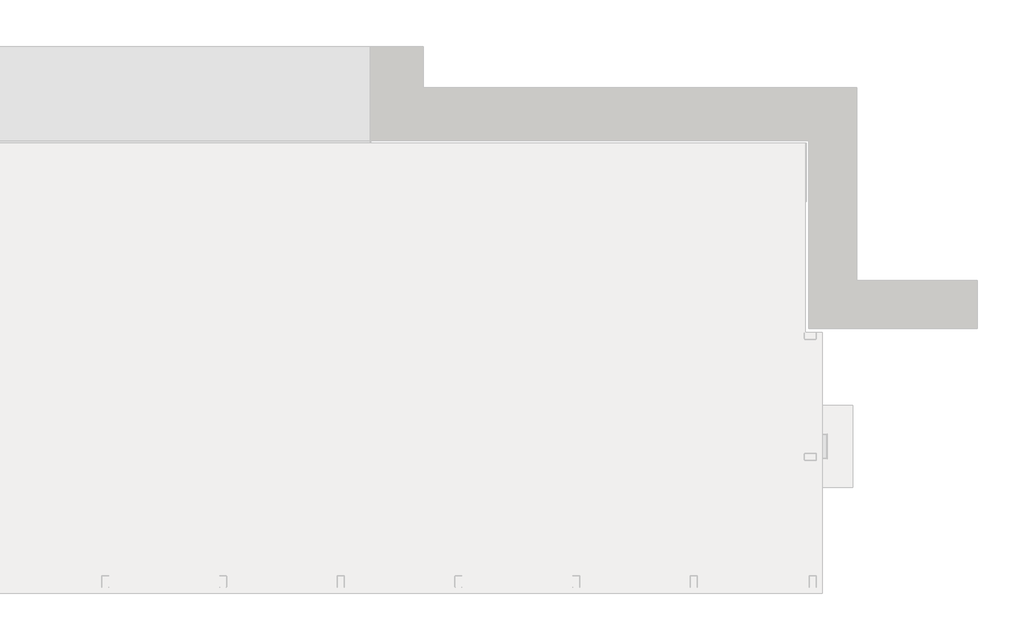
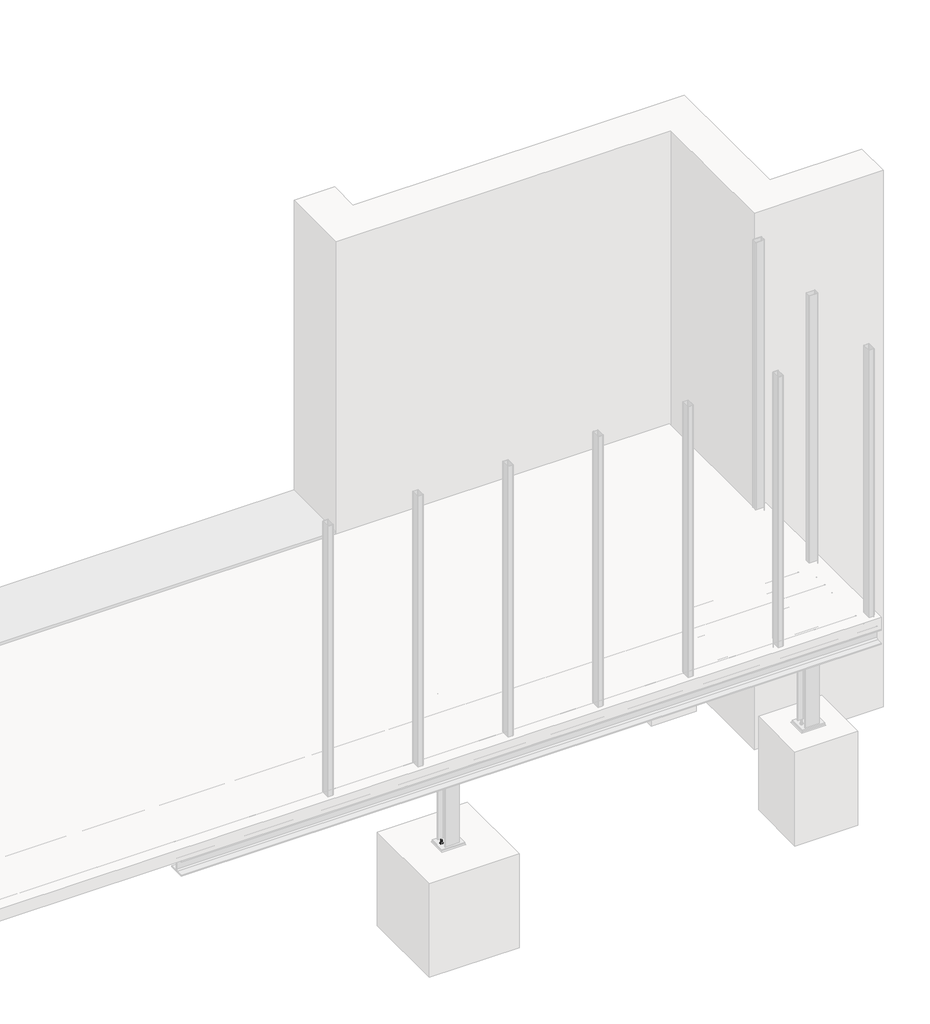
# One storey, part 32 of 36: 21 assemblies.
"""IFC4 building model written with IfcOpenShell, lengths in millimetres."""

from ifc_helpers import new_model, si_unit, point, frame, frame_2d, origin, place, context, project, spatial, polyline, circle_curve, trimmed, segment, composite_curve, outline, extrude, faceted_brep, element, save

model = new_model("IFC4")

# Units and contexts
model_context = context("Model", 3, world=origin())
ifc_project = project(units=[si_unit("LENGTHUNIT", "METRE", prefix="MILLI")], contexts=[model_context])

# Site, building, storey
site = spatial("IfcSite", under=ifc_project)
building = spatial("IfcBuilding", under=site)
storey = spatial("IfcBuildingStorey", under=building, Name="Základy", Elevation=-1200.0)

# Assemblies
placement = place(None, origin())
element("IfcElementAssembly", 1, at=placement, inside=storey, context=model_context, shape_type="SweptSolid", body=[
    extrude(outline(composite_curve([segment(polyline([(14073.6, 60.0), (14026.4, 60.0)]), True, "CONTINUOUS"), segment(trimmed(circle_curve(frame_2d((14026.4, 66.4)), 6.4), [point((14026.4, 60.0))], [point((14020.0, 66.4))], False, "CARTESIAN"), True, "CONTINUOUS"), segment(polyline([(14020.0, 66.4), (14020.0, 153.6)]), True, "CONTINUOUS"), segment(trimmed(circle_curve(frame_2d((14026.4, 153.6)), 6.4), [point((14020.0, 153.6))], [point((14026.4, 160.0))], False, "CARTESIAN"), True, "CONTINUOUS"), segment(polyline([(14026.4, 160.0), (14073.6, 160.0)]), True, "CONTINUOUS"), segment(trimmed(circle_curve(frame_2d((14073.6, 153.6)), 6.4), [point((14073.6, 160.0))], [point((14080.0, 153.6))], False, "CARTESIAN"), True, "CONTINUOUS"), segment(polyline([(14080.0, 153.6), (14080.0, 66.4)]), True, "CONTINUOUS"), segment(trimmed(circle_curve(frame_2d((14073.6, 66.4)), 6.4), [point((14080.0, 66.4))], [point((14073.6, 60.0))], False, "CARTESIAN"), True, "CONTINUOUS")], self_intersect=False), holes=[composite_curve([segment(trimmed(circle_curve(frame_2d((14073.6, 66.4)), 3.2), [point((14073.6, 63.2))], [point((14076.8, 66.4))], True, "CARTESIAN"), True, "CONTINUOUS"), segment(polyline([(14076.8, 66.4), (14076.8, 153.6)]), True, "CONTINUOUS"), segment(trimmed(circle_curve(frame_2d((14073.6, 153.6)), 3.2), [point((14076.8, 153.6))], [point((14073.6, 156.8))], True, "CARTESIAN"), True, "CONTINUOUS"), segment(polyline([(14073.6, 156.8), (14026.4, 156.8)]), True, "CONTINUOUS"), segment(trimmed(circle_curve(frame_2d((14026.4, 153.6)), 3.2), [point((14026.4, 156.8))], [point((14023.2, 153.6))], True, "CARTESIAN"), True, "CONTINUOUS"), segment(polyline([(14023.2, 153.6), (14023.2, 66.4)]), True, "CONTINUOUS"), segment(trimmed(circle_curve(frame_2d((14026.4, 66.4)), 3.2), [point((14023.2, 66.4))], [point((14026.4, 63.2))], True, "CARTESIAN"), True, "CONTINUOUS"), segment(polyline([(14026.4, 63.2), (14073.6, 63.2)]), True, "CONTINUOUS")], self_intersect=False)]), frame((0.0, 0.0, -160.0), z_axis=(0.0, 0.0, 1.0), x_axis=(1.0, 0.0, 0.0)), (0.0, 0.0, 1.0), 3320.0),
])
element("IfcElementAssembly", 2, at=placement, inside=storey, context=model_context, shape_type="SweptSolid", body=[
    extrude(outline(composite_curve([segment(polyline([(15073.6, 60.0), (15026.4, 60.0)]), True, "CONTINUOUS"), segment(trimmed(circle_curve(frame_2d((15026.4, 66.4)), 6.4), [point((15026.4, 60.0))], [point((15020.0, 66.4))], False, "CARTESIAN"), True, "CONTINUOUS"), segment(polyline([(15020.0, 66.4), (15020.0, 153.6)]), True, "CONTINUOUS"), segment(trimmed(circle_curve(frame_2d((15026.4, 153.6)), 6.4), [point((15020.0, 153.6))], [point((15026.4, 160.0))], False, "CARTESIAN"), True, "CONTINUOUS"), segment(polyline([(15026.4, 160.0), (15073.6, 160.0)]), True, "CONTINUOUS"), segment(trimmed(circle_curve(frame_2d((15073.6, 153.6)), 6.4), [point((15073.6, 160.0))], [point((15080.0, 153.6))], False, "CARTESIAN"), True, "CONTINUOUS"), segment(polyline([(15080.0, 153.6), (15080.0, 66.4)]), True, "CONTINUOUS"), segment(trimmed(circle_curve(frame_2d((15073.6, 66.4)), 6.4), [point((15080.0, 66.4))], [point((15073.6, 60.0))], False, "CARTESIAN"), True, "CONTINUOUS")], self_intersect=False), holes=[composite_curve([segment(trimmed(circle_curve(frame_2d((15073.6, 66.4)), 3.2), [point((15073.6, 63.2))], [point((15076.8, 66.4))], True, "CARTESIAN"), True, "CONTINUOUS"), segment(polyline([(15076.8, 66.4), (15076.8, 153.6)]), True, "CONTINUOUS"), segment(trimmed(circle_curve(frame_2d((15073.6, 153.6)), 3.2), [point((15076.8, 153.6))], [point((15073.6, 156.8))], True, "CARTESIAN"), True, "CONTINUOUS"), segment(polyline([(15073.6, 156.8), (15026.4, 156.8)]), True, "CONTINUOUS"), segment(trimmed(circle_curve(frame_2d((15026.4, 153.6)), 3.2), [point((15026.4, 156.8))], [point((15023.2, 153.6))], True, "CARTESIAN"), True, "CONTINUOUS"), segment(polyline([(15023.2, 153.6), (15023.2, 66.4)]), True, "CONTINUOUS"), segment(trimmed(circle_curve(frame_2d((15026.4, 66.4)), 3.2), [point((15023.2, 66.4))], [point((15026.4, 63.2))], True, "CARTESIAN"), True, "CONTINUOUS"), segment(polyline([(15026.4, 63.2), (15073.6, 63.2)]), True, "CONTINUOUS")], self_intersect=False)]), frame((0.0, 0.0, -160.0), z_axis=(0.0, 0.0, 1.0), x_axis=(1.0, 0.0, 0.0)), (0.0, 0.0, 1.0), 3320.0),
])
element("IfcElementAssembly", 3, at=placement, inside=storey, context=model_context, shape_type="SweptSolid", body=[
    extrude(outline(composite_curve([segment(polyline([(12130.0, 1184.0), (11970.0, 1184.0), (11970.0, 1193.0), (12032.0, 1193.0)]), True, "CONTINUOUS"), segment(trimmed(circle_curve(frame_2d((12032.0, 1208.0)), 15.0), [point((12032.0, 1193.0))], [point((12047.0, 1208.0))], True, "CARTESIAN"), True, "CONTINUOUS"), segment(polyline([(12047.0, 1208.0), (12047.0, 1312.0)]), True, "CONTINUOUS"), segment(trimmed(circle_curve(frame_2d((12032.0, 1312.0)), 15.0), [point((12047.0, 1312.0))], [point((12032.0, 1327.0))], True, "CARTESIAN"), True, "CONTINUOUS"), segment(polyline([(12032.0, 1327.0), (11970.0, 1327.0), (11970.0, 1336.0), (12130.0, 1336.0), (12130.0, 1327.0), (12068.0, 1327.0)]), True, "CONTINUOUS"), segment(trimmed(circle_curve(frame_2d((12068.0, 1312.0)), 15.0), [point((12068.0, 1327.0))], [point((12053.0, 1312.0))], True, "CARTESIAN"), True, "CONTINUOUS"), segment(polyline([(12053.0, 1312.0), (12053.0, 1208.0)]), True, "CONTINUOUS"), segment(trimmed(circle_curve(frame_2d((12068.0, 1208.0)), 15.0), [point((12053.0, 1208.0))], [point((12068.0, 1193.0))], True, "CARTESIAN"), True, "CONTINUOUS"), segment(polyline([(12068.0, 1193.0), (12130.0, 1193.0), (12130.0, 1184.0)]), True, "CONTINUOUS")], self_intersect=False)), frame((0.0, 0.0, -1975.0), z_axis=(0.0, 0.0, 1.0), x_axis=(1.0, 0.0, 0.0)), (0.0, 0.0, 1.0), 1625.0),
    extrude(outline(polyline([(12175.0, 1356.0), (12175.0, 1164.0), (11925.0, 1164.0), (11925.0, 1356.0), (12175.0, 1356.0)])), frame((0.0, 0.0, -1990.0), z_axis=(0.0, 0.0, 1.0), x_axis=(1.0, 0.0, 0.0)), (0.0, 0.0, 1.0), 15.0),
    extrude(outline(polyline([(12140.0, 1346.0), (12140.0, 1174.0), (11960.0, 1174.0), (11960.0, 1346.0), (12140.0, 1346.0)])), frame((0.0, 0.0, -350.0), z_axis=(0.0, 0.0, 1.0), x_axis=(1.0, 0.0, 0.0)), (0.0, 0.0, 1.0), 10.0),
    extrude(outline(polyline([(11982.7364934, 1260.0), (11978.8682467, 1253.3000002), (11971.1317533, 1253.3000002), (11967.2635066, 1260.0), (11971.1317533, 1266.6999998), (11978.8682467, 1266.6999998), (11982.7364934, 1260.0)])), frame((0.0, 0.0, -2122.0), z_axis=(0.0, 0.0, 1.0), x_axis=(1.0, 0.0, 0.0)), (0.0, 0.0, 1.0), 132.0),
    extrude(outline(composite_curve([segment(trimmed(circle_curve(frame_2d((11975.0, 1260.0)), 8.0), [point((11983.0, 1260.0))], [point((11967.0, 1260.0))], False, "CARTESIAN"), True, "CONTINUOUS"), segment(trimmed(circle_curve(frame_2d((11975.0, 1260.0)), 8.0), [point((11967.0, 1260.0))], [point((11983.0, 1260.0))], False, "CARTESIAN"), True, "CONTINUOUS")], self_intersect=False)), frame((0.0, 0.0, -1990.0), z_axis=(0.0, 0.0, 1.0), x_axis=(1.0, 0.0, 0.0)), (0.0, 0.0, 1.0), 58.0),
    extrude(outline(composite_curve([segment(trimmed(circle_curve(frame_2d((11975.0, 1260.0)), 15.0), [point((11990.0, 1260.0))], [point((11960.0, 1260.0))], False, "CARTESIAN"), True, "CONTINUOUS"), segment(trimmed(circle_curve(frame_2d((11975.0, 1260.0)), 15.0), [point((11960.0, 1260.0))], [point((11990.0, 1260.0))], False, "CARTESIAN"), True, "CONTINUOUS")], self_intersect=False)), frame((0.0, 0.0, -1975.0), z_axis=(0.0, 0.0, 1.0), x_axis=(1.0, 0.0, 0.0)), (0.0, 0.0, 1.0), 3.0),
    extrude(outline(polyline([(11990.4441197, 1260.0), (11982.7220599, 1246.625), (11967.2779401, 1246.625), (11959.5558803, 1260.0), (11967.2779401, 1273.375), (11982.7220599, 1273.375), (11990.4441197, 1260.0)])), frame((0.0, 0.0, -1972.0), z_axis=(0.0, 0.0, 1.0), x_axis=(1.0, 0.0, 0.0)), (0.0, 0.0, 1.0), 13.0),
    extrude(outline(composite_curve([segment(trimmed(circle_curve(frame_2d((11975.0, 1260.0)), 9.0), [point((11984.0, 1260.0))], [point((11966.0, 1260.0))], False, "CARTESIAN"), True, "CONTINUOUS"), segment(trimmed(circle_curve(frame_2d((11975.0, 1260.0)), 9.0), [point((11966.0, 1260.0))], [point((11984.0, 1260.0))], False, "CARTESIAN"), True, "CONTINUOUS")], self_intersect=False)), frame((0.0, 0.0, -1990.0), z_axis=(0.0, 0.0, 1.0), x_axis=(1.0, 0.0, 0.0)), (0.0, 0.0, 1.0), 15.1),
    extrude(outline(polyline([(12132.7364934, 1260.0), (12128.8682467, 1253.3000002), (12121.1317533, 1253.3000002), (12117.2635066, 1260.0), (12121.1317533, 1266.6999998), (12128.8682467, 1266.6999998), (12132.7364934, 1260.0)])), frame((0.0, 0.0, -2122.0), z_axis=(0.0, 0.0, 1.0), x_axis=(1.0, 0.0, 0.0)), (0.0, 0.0, 1.0), 132.0),
    extrude(outline(composite_curve([segment(trimmed(circle_curve(frame_2d((12125.0, 1260.0)), 8.0), [point((12133.0, 1260.0))], [point((12117.0, 1260.0))], False, "CARTESIAN"), True, "CONTINUOUS"), segment(trimmed(circle_curve(frame_2d((12125.0, 1260.0)), 8.0), [point((12117.0, 1260.0))], [point((12133.0, 1260.0))], False, "CARTESIAN"), True, "CONTINUOUS")], self_intersect=False)), frame((0.0, 0.0, -1990.0), z_axis=(0.0, 0.0, 1.0), x_axis=(1.0, 0.0, 0.0)), (0.0, 0.0, 1.0), 58.0),
    extrude(outline(composite_curve([segment(trimmed(circle_curve(frame_2d((12125.0, 1260.0)), 15.0), [point((12140.0, 1260.0))], [point((12110.0, 1260.0))], False, "CARTESIAN"), True, "CONTINUOUS"), segment(trimmed(circle_curve(frame_2d((12125.0, 1260.0)), 15.0), [point((12110.0, 1260.0))], [point((12140.0, 1260.0))], False, "CARTESIAN"), True, "CONTINUOUS")], self_intersect=False)), frame((0.0, 0.0, -1975.0), z_axis=(0.0, 0.0, 1.0), x_axis=(1.0, 0.0, 0.0)), (0.0, 0.0, 1.0), 3.0),
    extrude(outline(polyline([(12140.4441197, 1260.0), (12132.7220599, 1246.625), (12117.2779401, 1246.625), (12109.5558803, 1260.0), (12117.2779401, 1273.375), (12132.7220599, 1273.375), (12140.4441197, 1260.0)])), frame((0.0, 0.0, -1972.0), z_axis=(0.0, 0.0, 1.0), x_axis=(1.0, 0.0, 0.0)), (0.0, 0.0, 1.0), 13.0),
    extrude(outline(composite_curve([segment(trimmed(circle_curve(frame_2d((12125.0, 1260.0)), 9.0), [point((12134.0, 1260.0))], [point((12116.0, 1260.0))], False, "CARTESIAN"), True, "CONTINUOUS"), segment(trimmed(circle_curve(frame_2d((12125.0, 1260.0)), 9.0), [point((12116.0, 1260.0))], [point((12134.0, 1260.0))], False, "CARTESIAN"), True, "CONTINUOUS")], self_intersect=False)), frame((0.0, 0.0, -1990.0), z_axis=(0.0, 0.0, 1.0), x_axis=(1.0, 0.0, 0.0)), (0.0, 0.0, 1.0), 15.1),
    extrude(outline(composite_curve([segment(trimmed(circle_curve(frame_2d((12000.0, 1220.0)), 6.5), [point((12006.5, 1220.0))], [point((11993.5, 1220.0))], False, "CARTESIAN"), True, "CONTINUOUS"), segment(trimmed(circle_curve(frame_2d((12000.0, 1220.0)), 6.5), [point((11993.5, 1220.0))], [point((12006.5, 1220.0))], False, "CARTESIAN"), True, "CONTINUOUS")], self_intersect=False)), frame((0.0, 0.0, -350.0), z_axis=(0.0, 0.0, 1.0), x_axis=(1.0, 0.0, 0.0)), (0.0, 0.0, 1.0), 10.1),
    extrude(outline(polyline([(12010.3923048, 1220.0), (12005.1961524, 1211.0), (11994.8038476, 1211.0), (11989.6076952, 1220.0), (11994.8038476, 1229.0), (12005.1961524, 1229.0), (12010.3923048, 1220.0)])), frame((0.0, 0.0, -323.5), z_axis=(0.0, 0.0, 1.0), x_axis=(1.0, 0.0, 0.0)), (0.0, 0.0, 1.0), 7.5),
    extrude(outline(composite_curve([segment(trimmed(circle_curve(frame_2d((12000.0, 1220.0)), 6.0), [point((12006.0, 1220.0))], [point((11994.0, 1220.0))], False, "CARTESIAN"), True, "CONTINUOUS"), segment(trimmed(circle_curve(frame_2d((12000.0, 1220.0)), 6.0), [point((11994.0, 1220.0))], [point((12006.0, 1220.0))], False, "CARTESIAN"), True, "CONTINUOUS")], self_intersect=False)), frame((0.0, 0.0, -368.5), z_axis=(0.0, 0.0, 1.0), x_axis=(1.0, 0.0, 0.0)), (0.0, 0.0, 1.0), 45.0),
    extrude(outline(composite_curve([segment(trimmed(circle_curve(frame_2d((12000.0, 1220.0)), 12.0), [point((12012.0, 1220.0))], [point((11988.0, 1220.0))], False, "CARTESIAN"), True, "CONTINUOUS"), segment(trimmed(circle_curve(frame_2d((12000.0, 1220.0)), 12.0), [point((11988.0, 1220.0))], [point((12012.0, 1220.0))], False, "CARTESIAN"), True, "CONTINUOUS")], self_intersect=False)), frame((0.0, 0.0, -326.0), z_axis=(0.0, 0.0, 1.0), x_axis=(1.0, 0.0, 0.0)), (0.0, 0.0, 1.0), 2.5),
    extrude(outline(composite_curve([segment(trimmed(circle_curve(frame_2d((12000.0, 1220.0)), 12.0), [point((12012.0, 1220.0))], [point((11988.0, 1220.0))], False, "CARTESIAN"), True, "CONTINUOUS"), segment(trimmed(circle_curve(frame_2d((12000.0, 1220.0)), 12.0), [point((11988.0, 1220.0))], [point((12012.0, 1220.0))], False, "CARTESIAN"), True, "CONTINUOUS")], self_intersect=False)), frame((0.0, 0.0, -352.5), z_axis=(0.0, 0.0, 1.0), x_axis=(1.0, 0.0, 0.0)), (0.0, 0.0, 1.0), 2.5),
    extrude(outline(polyline([(12010.9696551, 1220.0), (12005.4848276, 1210.5), (11994.5151724, 1210.5), (11989.0303449, 1220.0), (11994.5151724, 1229.5), (12005.4848276, 1229.5), (12010.9696551, 1220.0)])), frame((0.0, 0.0, -362.5), z_axis=(0.0, 0.0, 1.0), x_axis=(1.0, 0.0, 0.0)), (0.0, 0.0, 1.0), 10.0),
    extrude(outline(composite_curve([segment(trimmed(circle_curve(frame_2d((12000.0, 1220.0)), 6.5), [point((12006.5, 1220.0))], [point((11993.5, 1220.0))], False, "CARTESIAN"), True, "CONTINUOUS"), segment(trimmed(circle_curve(frame_2d((12000.0, 1220.0)), 6.5), [point((11993.5, 1220.0))], [point((12006.5, 1220.0))], False, "CARTESIAN"), True, "CONTINUOUS")], self_intersect=False)), frame((0.0, 0.0, -340.1), z_axis=(0.0, 0.0, 1.0), x_axis=(1.0, 0.0, 0.0)), (0.0, 0.0, 1.0), 14.0),
    extrude(outline(composite_curve([segment(trimmed(circle_curve(frame_2d((12100.0, 1220.0)), 6.5), [point((12106.5, 1220.0))], [point((12093.5, 1220.0))], False, "CARTESIAN"), True, "CONTINUOUS"), segment(trimmed(circle_curve(frame_2d((12100.0, 1220.0)), 6.5), [point((12093.5, 1220.0))], [point((12106.5, 1220.0))], False, "CARTESIAN"), True, "CONTINUOUS")], self_intersect=False)), frame((0.0, 0.0, -350.0), z_axis=(0.0, 0.0, 1.0), x_axis=(1.0, 0.0, 0.0)), (0.0, 0.0, 1.0), 10.1),
    extrude(outline(polyline([(12110.3923048, 1220.0), (12105.1961524, 1211.0), (12094.8038476, 1211.0), (12089.6076952, 1220.0), (12094.8038476, 1229.0), (12105.1961524, 1229.0), (12110.3923048, 1220.0)])), frame((0.0, 0.0, -323.5), z_axis=(0.0, 0.0, 1.0), x_axis=(1.0, 0.0, 0.0)), (0.0, 0.0, 1.0), 7.5),
    extrude(outline(composite_curve([segment(trimmed(circle_curve(frame_2d((12100.0, 1220.0)), 6.0), [point((12106.0, 1220.0))], [point((12094.0, 1220.0))], False, "CARTESIAN"), True, "CONTINUOUS"), segment(trimmed(circle_curve(frame_2d((12100.0, 1220.0)), 6.0), [point((12094.0, 1220.0))], [point((12106.0, 1220.0))], False, "CARTESIAN"), True, "CONTINUOUS")], self_intersect=False)), frame((0.0, 0.0, -368.5), z_axis=(0.0, 0.0, 1.0), x_axis=(1.0, 0.0, 0.0)), (0.0, 0.0, 1.0), 45.0),
    extrude(outline(composite_curve([segment(trimmed(circle_curve(frame_2d((12100.0, 1220.0)), 12.0), [point((12112.0, 1220.0))], [point((12088.0, 1220.0))], False, "CARTESIAN"), True, "CONTINUOUS"), segment(trimmed(circle_curve(frame_2d((12100.0, 1220.0)), 12.0), [point((12088.0, 1220.0))], [point((12112.0, 1220.0))], False, "CARTESIAN"), True, "CONTINUOUS")], self_intersect=False)), frame((0.0, 0.0, -326.0), z_axis=(0.0, 0.0, 1.0), x_axis=(1.0, 0.0, 0.0)), (0.0, 0.0, 1.0), 2.5),
    extrude(outline(composite_curve([segment(trimmed(circle_curve(frame_2d((12100.0, 1220.0)), 12.0), [point((12112.0, 1220.0))], [point((12088.0, 1220.0))], False, "CARTESIAN"), True, "CONTINUOUS"), segment(trimmed(circle_curve(frame_2d((12100.0, 1220.0)), 12.0), [point((12088.0, 1220.0))], [point((12112.0, 1220.0))], False, "CARTESIAN"), True, "CONTINUOUS")], self_intersect=False)), frame((0.0, 0.0, -352.5), z_axis=(0.0, 0.0, 1.0), x_axis=(1.0, 0.0, 0.0)), (0.0, 0.0, 1.0), 2.5),
    extrude(outline(polyline([(12110.9696551, 1220.0), (12105.4848276, 1210.5), (12094.5151724, 1210.5), (12089.0303449, 1220.0), (12094.5151724, 1229.5), (12105.4848276, 1229.5), (12110.9696551, 1220.0)])), frame((0.0, 0.0, -362.5), z_axis=(0.0, 0.0, 1.0), x_axis=(1.0, 0.0, 0.0)), (0.0, 0.0, 1.0), 10.0),
    extrude(outline(composite_curve([segment(trimmed(circle_curve(frame_2d((12100.0, 1220.0)), 6.5), [point((12106.5, 1220.0))], [point((12093.5, 1220.0))], False, "CARTESIAN"), True, "CONTINUOUS"), segment(trimmed(circle_curve(frame_2d((12100.0, 1220.0)), 6.5), [point((12093.5, 1220.0))], [point((12106.5, 1220.0))], False, "CARTESIAN"), True, "CONTINUOUS")], self_intersect=False)), frame((0.0, 0.0, -340.1), z_axis=(0.0, 0.0, 1.0), x_axis=(1.0, 0.0, 0.0)), (0.0, 0.0, 1.0), 14.0),
    extrude(outline(composite_curve([segment(trimmed(circle_curve(frame_2d((12000.0, 1300.0)), 6.5), [point((12006.5, 1300.0))], [point((11993.5, 1300.0))], False, "CARTESIAN"), True, "CONTINUOUS"), segment(trimmed(circle_curve(frame_2d((12000.0, 1300.0)), 6.5), [point((11993.5, 1300.0))], [point((12006.5, 1300.0))], False, "CARTESIAN"), True, "CONTINUOUS")], self_intersect=False)), frame((0.0, 0.0, -350.0), z_axis=(0.0, 0.0, 1.0), x_axis=(1.0, 0.0, 0.0)), (0.0, 0.0, 1.0), 10.1),
    extrude(outline(polyline([(12010.3923048, 1300.0), (12005.1961524, 1291.0), (11994.8038476, 1291.0), (11989.6076952, 1300.0), (11994.8038476, 1309.0), (12005.1961524, 1309.0), (12010.3923048, 1300.0)])), frame((0.0, 0.0, -323.5), z_axis=(0.0, 0.0, 1.0), x_axis=(1.0, 0.0, 0.0)), (0.0, 0.0, 1.0), 7.5),
    extrude(outline(composite_curve([segment(trimmed(circle_curve(frame_2d((12000.0, 1300.0)), 6.0), [point((12006.0, 1300.0))], [point((11994.0, 1300.0))], False, "CARTESIAN"), True, "CONTINUOUS"), segment(trimmed(circle_curve(frame_2d((12000.0, 1300.0)), 6.0), [point((11994.0, 1300.0))], [point((12006.0, 1300.0))], False, "CARTESIAN"), True, "CONTINUOUS")], self_intersect=False)), frame((0.0, 0.0, -368.5), z_axis=(0.0, 0.0, 1.0), x_axis=(1.0, 0.0, 0.0)), (0.0, 0.0, 1.0), 45.0),
    extrude(outline(composite_curve([segment(trimmed(circle_curve(frame_2d((12000.0, 1300.0)), 12.0), [point((12012.0, 1300.0))], [point((11988.0, 1300.0))], False, "CARTESIAN"), True, "CONTINUOUS"), segment(trimmed(circle_curve(frame_2d((12000.0, 1300.0)), 12.0), [point((11988.0, 1300.0))], [point((12012.0, 1300.0))], False, "CARTESIAN"), True, "CONTINUOUS")], self_intersect=False)), frame((0.0, 0.0, -326.0), z_axis=(0.0, 0.0, 1.0), x_axis=(1.0, 0.0, 0.0)), (0.0, 0.0, 1.0), 2.5),
    extrude(outline(composite_curve([segment(trimmed(circle_curve(frame_2d((12000.0, 1300.0)), 12.0), [point((12012.0, 1300.0))], [point((11988.0, 1300.0))], False, "CARTESIAN"), True, "CONTINUOUS"), segment(trimmed(circle_curve(frame_2d((12000.0, 1300.0)), 12.0), [point((11988.0, 1300.0))], [point((12012.0, 1300.0))], False, "CARTESIAN"), True, "CONTINUOUS")], self_intersect=False)), frame((0.0, 0.0, -352.5), z_axis=(0.0, 0.0, 1.0), x_axis=(1.0, 0.0, 0.0)), (0.0, 0.0, 1.0), 2.5),
    extrude(outline(polyline([(12010.9696551, 1300.0), (12005.4848276, 1290.5), (11994.5151724, 1290.5), (11989.0303449, 1300.0), (11994.5151724, 1309.5), (12005.4848276, 1309.5), (12010.9696551, 1300.0)])), frame((0.0, 0.0, -362.5), z_axis=(0.0, 0.0, 1.0), x_axis=(1.0, 0.0, 0.0)), (0.0, 0.0, 1.0), 10.0),
    extrude(outline(composite_curve([segment(trimmed(circle_curve(frame_2d((12000.0, 1300.0)), 6.5), [point((12006.5, 1300.0))], [point((11993.5, 1300.0))], False, "CARTESIAN"), True, "CONTINUOUS"), segment(trimmed(circle_curve(frame_2d((12000.0, 1300.0)), 6.5), [point((11993.5, 1300.0))], [point((12006.5, 1300.0))], False, "CARTESIAN"), True, "CONTINUOUS")], self_intersect=False)), frame((0.0, 0.0, -340.1), z_axis=(0.0, 0.0, 1.0), x_axis=(1.0, 0.0, 0.0)), (0.0, 0.0, 1.0), 14.0),
    extrude(outline(composite_curve([segment(trimmed(circle_curve(frame_2d((12100.0, 1300.0)), 6.5), [point((12106.5, 1300.0))], [point((12093.5, 1300.0))], False, "CARTESIAN"), True, "CONTINUOUS"), segment(trimmed(circle_curve(frame_2d((12100.0, 1300.0)), 6.5), [point((12093.5, 1300.0))], [point((12106.5, 1300.0))], False, "CARTESIAN"), True, "CONTINUOUS")], self_intersect=False)), frame((0.0, 0.0, -350.0), z_axis=(0.0, 0.0, 1.0), x_axis=(1.0, 0.0, 0.0)), (0.0, 0.0, 1.0), 10.1),
    extrude(outline(polyline([(12110.3923048, 1300.0), (12105.1961524, 1291.0), (12094.8038476, 1291.0), (12089.6076952, 1300.0), (12094.8038476, 1309.0), (12105.1961524, 1309.0), (12110.3923048, 1300.0)])), frame((0.0, 0.0, -323.5), z_axis=(0.0, 0.0, 1.0), x_axis=(1.0, 0.0, 0.0)), (0.0, 0.0, 1.0), 7.5),
    extrude(outline(composite_curve([segment(trimmed(circle_curve(frame_2d((12100.0, 1300.0)), 6.0), [point((12106.0, 1300.0))], [point((12094.0, 1300.0))], False, "CARTESIAN"), True, "CONTINUOUS"), segment(trimmed(circle_curve(frame_2d((12100.0, 1300.0)), 6.0), [point((12094.0, 1300.0))], [point((12106.0, 1300.0))], False, "CARTESIAN"), True, "CONTINUOUS")], self_intersect=False)), frame((0.0, 0.0, -368.5), z_axis=(0.0, 0.0, 1.0), x_axis=(1.0, 0.0, 0.0)), (0.0, 0.0, 1.0), 45.0),
    extrude(outline(composite_curve([segment(trimmed(circle_curve(frame_2d((12100.0, 1300.0)), 12.0), [point((12112.0, 1300.0))], [point((12088.0, 1300.0))], False, "CARTESIAN"), True, "CONTINUOUS"), segment(trimmed(circle_curve(frame_2d((12100.0, 1300.0)), 12.0), [point((12088.0, 1300.0))], [point((12112.0, 1300.0))], False, "CARTESIAN"), True, "CONTINUOUS")], self_intersect=False)), frame((0.0, 0.0, -326.0), z_axis=(0.0, 0.0, 1.0), x_axis=(1.0, 0.0, 0.0)), (0.0, 0.0, 1.0), 2.5),
    extrude(outline(composite_curve([segment(trimmed(circle_curve(frame_2d((12100.0, 1300.0)), 12.0), [point((12112.0, 1300.0))], [point((12088.0, 1300.0))], False, "CARTESIAN"), True, "CONTINUOUS"), segment(trimmed(circle_curve(frame_2d((12100.0, 1300.0)), 12.0), [point((12088.0, 1300.0))], [point((12112.0, 1300.0))], False, "CARTESIAN"), True, "CONTINUOUS")], self_intersect=False)), frame((0.0, 0.0, -352.5), z_axis=(0.0, 0.0, 1.0), x_axis=(1.0, 0.0, 0.0)), (0.0, 0.0, 1.0), 2.5),
    extrude(outline(polyline([(12110.9696551, 1300.0), (12105.4848276, 1290.5), (12094.5151724, 1290.5), (12089.0303449, 1300.0), (12094.5151724, 1309.5), (12105.4848276, 1309.5), (12110.9696551, 1300.0)])), frame((0.0, 0.0, -362.5), z_axis=(0.0, 0.0, 1.0), x_axis=(1.0, 0.0, 0.0)), (0.0, 0.0, 1.0), 10.0),
    extrude(outline(composite_curve([segment(trimmed(circle_curve(frame_2d((12100.0, 1300.0)), 6.5), [point((12106.5, 1300.0))], [point((12093.5, 1300.0))], False, "CARTESIAN"), True, "CONTINUOUS"), segment(trimmed(circle_curve(frame_2d((12100.0, 1300.0)), 6.5), [point((12093.5, 1300.0))], [point((12106.5, 1300.0))], False, "CARTESIAN"), True, "CONTINUOUS")], self_intersect=False)), frame((0.0, 0.0, -340.1), z_axis=(0.0, 0.0, 1.0), x_axis=(1.0, 0.0, 0.0)), (0.0, 0.0, 1.0), 14.0),
])
element("IfcElementAssembly", 4, at=placement, inside=storey, context=model_context, shape_type="SweptSolid", body=[
    extrude(outline(polyline([(12550.0, 1760.0), (12550.0, 760.0), (11550.0, 760.0), (11550.0, 1760.0), (12550.0, 1760.0)])), frame((0.0, 0.0, -3100.0), z_axis=(0.0, 0.0, 1.0), x_axis=(1.0, 0.0, 0.0)), (0.0, 0.0, 1.0), 1100.0),
])
element("IfcElementAssembly", 5, at=placement, inside=storey, context=model_context, shape_type="SweptSolid", body=[
    extrude(outline(composite_curve([segment(polyline([(-340.0, 14095.5), (-332.0, 14095.5), (-332.0, 14061.6500001)]), True, "CONTINUOUS"), segment(trimmed(circle_curve(frame_2d((-323.0, 14061.6500001)), 9.0), [point((-332.0, 14061.6500001))], [point((-323.0, 14052.6500001))], True, "CARTESIAN"), True, "CONTINUOUS"), segment(polyline([(-323.0, 14052.6500001), (-177.0, 14052.6500001)]), True, "CONTINUOUS"), segment(trimmed(circle_curve(frame_2d((-177.0, 14061.6500001)), 9.0), [point((-177.0, 14052.6500001))], [point((-168.0, 14061.6500001))], True, "CARTESIAN"), True, "CONTINUOUS"), segment(polyline([(-168.0, 14061.6500001), (-168.0, 14095.5), (-160.0, 14095.5), (-160.0, 14004.5), (-168.0, 14004.5), (-168.0, 14038.3499999)]), True, "CONTINUOUS"), segment(trimmed(circle_curve(frame_2d((-177.0, 14038.3499999)), 9.0), [point((-168.0, 14038.3499999))], [point((-177.0, 14047.3499999))], True, "CARTESIAN"), True, "CONTINUOUS"), segment(polyline([(-177.0, 14047.3499999), (-323.0, 14047.3499999)]), True, "CONTINUOUS"), segment(trimmed(circle_curve(frame_2d((-323.0, 14038.3499999)), 9.0), [point((-323.0, 14047.3499999))], [point((-332.0, 14038.3499999))], True, "CARTESIAN"), True, "CONTINUOUS"), segment(polyline([(-332.0, 14038.3499999), (-332.0, 14004.5), (-340.0, 14004.5), (-340.0, 14095.5)]), True, "CONTINUOUS")], self_intersect=False)), frame((0.0, 210.0, 0.0), z_axis=(0.0, 1.0, 0.0), x_axis=(0.0, 0.0, 1.0)), (0.0, 0.0, 1.0), 940.0),
    extrude(outline(polyline([(13985.0, 210.0), (14115.0, 210.0), (14115.0, 200.0), (13985.0, 200.0), (13985.0, 210.0)])), frame((0.0, 0.0, -332.0), z_axis=(0.0, 0.0, 1.0), x_axis=(1.0, 0.0, 0.0)), (0.0, 0.0, 1.0), 164.0),
    extrude(outline(polyline([(13985.0, 1160.0), (14115.0, 1160.0), (14115.0, 1150.0), (13985.0, 1150.0), (13985.0, 1160.0)])), frame((0.0, 0.0, -332.0), z_axis=(0.0, 0.0, 1.0), x_axis=(1.0, 0.0, 0.0)), (0.0, 0.0, 1.0), 164.0),
])
element("IfcElementAssembly", 6, at=placement, inside=storey, context=model_context, shape_type="SweptSolid", body=[
    extrude(outline(polyline([(802.7875602, -160.0099992), (772.2875602, -111.5000008), (637.6975638, -111.5000008), (607.1975638, -160.0000008), (552.7875754, -160.0000008), (522.2875754, -111.5000008), (387.6975715, -111.5000008), (357.1975715, -160.0000008), (302.7875697, -160.0000008), (272.2875716, -111.5000008), (160.0, -111.5000008), (160.0, -110.7500008), (272.6975715, -110.7500008), (303.1975695, -159.2500008), (356.7875716, -159.2500008), (387.2875678, -110.7500008), (522.6975638, -110.7500008), (553.1975638, -159.2500008), (606.7875602, -159.2500008), (637.2875602, -110.7500008), (772.6975638, -110.7500008), (803.1975638, -159.2500008), (839.9975821, -160.0000008), (802.7875602, -160.0099992)])), frame((11960.0, 0.0, 0.0), z_axis=(1.0, 0.0, 0.0), x_axis=(0.0, 1.0, 0.0)), (0.0, 0.0, 1.0), 4180.0),
])
element("IfcElementAssembly", 7, at=placement, inside=storey, context=model_context, shape_type="Brep", body=[
    faceted_brep([(11925.0, 1356.0, -1990.0), (11925.0, 1164.0, -1990.0), (12175.0, 1164.0, -1990.0), (12175.0, 1356.0, -1990.0), (12185.0, 1154.0, -2000.0), (11915.0, 1154.0, -2000.0), (11915.0, 1366.0, -2000.0), (12185.0, 1366.0, -2000.0)], [[[0, 1, 2, 3]], [[4, 5, 6, 7]], [[5, 4, 2, 1]], [[1, 0, 6, 5]], [[7, 6, 0, 3]], [[3, 2, 4, 7]]]),
])
element("IfcElementAssembly", 8, at=placement, inside=storey, context=model_context, shape_type="SweptSolid", body=[
    extrude(outline(composite_curve([segment(trimmed(circle_curve(frame_2d((-49.0, 12027.5)), 4.0), [point((-49.0, 12023.5))], [point((-49.0, 12031.5))], False, "CARTESIAN"), True, "CONTINUOUS"), segment(trimmed(circle_curve(frame_2d((-49.0, 12027.5)), 4.0), [point((-49.0, 12031.5))], [point((-49.0, 12023.5))], False, "CARTESIAN"), True, "CONTINUOUS")], self_intersect=False)), frame((0.0, 35.0, 0.0), z_axis=(0.0, 1.0, 0.0), x_axis=(0.0, 0.0, 1.0)), (0.0, 0.0, 1.0), 3780.0),
])
element("IfcElementAssembly", 9, at=placement, inside=storey, context=model_context, shape_type="SweptSolid", body=[
    extrude(outline(composite_curve([segment(trimmed(circle_curve(frame_2d((-49.0, 12177.5)), 4.0), [point((-49.0, 12173.5))], [point((-49.0, 12181.5))], False, "CARTESIAN"), True, "CONTINUOUS"), segment(trimmed(circle_curve(frame_2d((-49.0, 12177.5)), 4.0), [point((-49.0, 12181.5))], [point((-49.0, 12173.5))], False, "CARTESIAN"), True, "CONTINUOUS")], self_intersect=False)), frame((0.0, 35.0, 0.0), z_axis=(0.0, 1.0, 0.0), x_axis=(0.0, 0.0, 1.0)), (0.0, 0.0, 1.0), 3780.0),
])
element("IfcElementAssembly", 10, at=placement, inside=storey, context=model_context, shape_type="SweptSolid", body=[
    extrude(outline(composite_curve([segment(trimmed(circle_curve(frame_2d((-49.0, 12327.5)), 4.0), [point((-49.0, 12323.5))], [point((-49.0, 12331.5))], False, "CARTESIAN"), True, "CONTINUOUS"), segment(trimmed(circle_curve(frame_2d((-49.0, 12327.5)), 4.0), [point((-49.0, 12331.5))], [point((-49.0, 12323.5))], False, "CARTESIAN"), True, "CONTINUOUS")], self_intersect=False)), frame((0.0, 35.0, 0.0), z_axis=(0.0, 1.0, 0.0), x_axis=(0.0, 0.0, 1.0)), (0.0, 0.0, 1.0), 3780.0),
])
element("IfcElementAssembly", 11, at=placement, inside=storey, context=model_context, shape_type="SweptSolid", body=[
    extrude(outline(composite_curve([segment(trimmed(circle_curve(frame_2d((-49.0, 12477.5)), 4.0), [point((-49.0, 12473.5))], [point((-49.0, 12481.5))], False, "CARTESIAN"), True, "CONTINUOUS"), segment(trimmed(circle_curve(frame_2d((-49.0, 12477.5)), 4.0), [point((-49.0, 12481.5))], [point((-49.0, 12473.5))], False, "CARTESIAN"), True, "CONTINUOUS")], self_intersect=False)), frame((0.0, 35.0, 0.0), z_axis=(0.0, 1.0, 0.0), x_axis=(0.0, 0.0, 1.0)), (0.0, 0.0, 1.0), 3780.0),
])
element("IfcElementAssembly", 12, at=placement, inside=storey, context=model_context, shape_type="SweptSolid", body=[
    extrude(outline(composite_curve([segment(trimmed(circle_curve(frame_2d((-49.0, 12627.5)), 4.0), [point((-49.0, 12623.5))], [point((-49.0, 12631.5))], False, "CARTESIAN"), True, "CONTINUOUS"), segment(trimmed(circle_curve(frame_2d((-49.0, 12627.5)), 4.0), [point((-49.0, 12631.5))], [point((-49.0, 12623.5))], False, "CARTESIAN"), True, "CONTINUOUS")], self_intersect=False)), frame((0.0, 35.0, 0.0), z_axis=(0.0, 1.0, 0.0), x_axis=(0.0, 0.0, 1.0)), (0.0, 0.0, 1.0), 3780.0),
])
element("IfcElementAssembly", 13, at=placement, inside=storey, context=model_context, shape_type="SweptSolid", body=[
    extrude(outline(composite_curve([segment(trimmed(circle_curve(frame_2d((-49.0, 12777.5)), 4.0), [point((-49.0, 12773.5))], [point((-49.0, 12781.5))], False, "CARTESIAN"), True, "CONTINUOUS"), segment(trimmed(circle_curve(frame_2d((-49.0, 12777.5)), 4.0), [point((-49.0, 12781.5))], [point((-49.0, 12773.5))], False, "CARTESIAN"), True, "CONTINUOUS")], self_intersect=False)), frame((0.0, 35.0, 0.0), z_axis=(0.0, 1.0, 0.0), x_axis=(0.0, 0.0, 1.0)), (0.0, 0.0, 1.0), 3780.0),
])
element("IfcElementAssembly", 14, at=placement, inside=storey, context=model_context, shape_type="SweptSolid", body=[
    extrude(outline(composite_curve([segment(trimmed(circle_curve(frame_2d((-49.0, 12927.5)), 4.0), [point((-49.0, 12923.5))], [point((-49.0, 12931.5))], False, "CARTESIAN"), True, "CONTINUOUS"), segment(trimmed(circle_curve(frame_2d((-49.0, 12927.5)), 4.0), [point((-49.0, 12931.5))], [point((-49.0, 12923.5))], False, "CARTESIAN"), True, "CONTINUOUS")], self_intersect=False)), frame((0.0, 35.0, 0.0), z_axis=(0.0, 1.0, 0.0), x_axis=(0.0, 0.0, 1.0)), (0.0, 0.0, 1.0), 3780.0),
])
element("IfcElementAssembly", 15, at=placement, inside=storey, context=model_context, shape_type="SweptSolid", body=[
    extrude(outline(composite_curve([segment(trimmed(circle_curve(frame_2d((-49.0, 13077.5)), 4.0), [point((-49.0, 13073.5))], [point((-49.0, 13081.5))], False, "CARTESIAN"), True, "CONTINUOUS"), segment(trimmed(circle_curve(frame_2d((-49.0, 13077.5)), 4.0), [point((-49.0, 13081.5))], [point((-49.0, 13073.5))], False, "CARTESIAN"), True, "CONTINUOUS")], self_intersect=False)), frame((0.0, 35.0, 0.0), z_axis=(0.0, 1.0, 0.0), x_axis=(0.0, 0.0, 1.0)), (0.0, 0.0, 1.0), 3780.0),
])
element("IfcElementAssembly", 16, at=placement, inside=storey, context=model_context, shape_type="SweptSolid", body=[
    extrude(outline(composite_curve([segment(trimmed(circle_curve(frame_2d((-49.0, 13227.5)), 4.0), [point((-49.0, 13223.5))], [point((-49.0, 13231.5))], False, "CARTESIAN"), True, "CONTINUOUS"), segment(trimmed(circle_curve(frame_2d((-49.0, 13227.5)), 4.0), [point((-49.0, 13231.5))], [point((-49.0, 13223.5))], False, "CARTESIAN"), True, "CONTINUOUS")], self_intersect=False)), frame((0.0, 35.0, 0.0), z_axis=(0.0, 1.0, 0.0), x_axis=(0.0, 0.0, 1.0)), (0.0, 0.0, 1.0), 3780.0),
])
element("IfcElementAssembly", 17, at=placement, inside=storey, context=model_context, shape_type="SweptSolid", body=[
    extrude(outline(composite_curve([segment(trimmed(circle_curve(frame_2d((-49.0, 13377.5)), 4.0), [point((-49.0, 13373.5))], [point((-49.0, 13381.5))], False, "CARTESIAN"), True, "CONTINUOUS"), segment(trimmed(circle_curve(frame_2d((-49.0, 13377.5)), 4.0), [point((-49.0, 13381.5))], [point((-49.0, 13373.5))], False, "CARTESIAN"), True, "CONTINUOUS")], self_intersect=False)), frame((0.0, 35.0, 0.0), z_axis=(0.0, 1.0, 0.0), x_axis=(0.0, 0.0, 1.0)), (0.0, 0.0, 1.0), 3780.0),
])
element("IfcElementAssembly", 18, at=placement, inside=storey, context=model_context, shape_type="SweptSolid", body=[
    extrude(outline(composite_curve([segment(trimmed(circle_curve(frame_2d((-49.0, 13527.5)), 4.0), [point((-49.0, 13523.5))], [point((-49.0, 13531.5))], False, "CARTESIAN"), True, "CONTINUOUS"), segment(trimmed(circle_curve(frame_2d((-49.0, 13527.5)), 4.0), [point((-49.0, 13531.5))], [point((-49.0, 13523.5))], False, "CARTESIAN"), True, "CONTINUOUS")], self_intersect=False)), frame((0.0, 35.0, 0.0), z_axis=(0.0, 1.0, 0.0), x_axis=(0.0, 0.0, 1.0)), (0.0, 0.0, 1.0), 3780.0),
])
element("IfcElementAssembly", 19, at=placement, inside=storey, context=model_context, shape_type="SweptSolid", body=[
    extrude(outline(composite_curve([segment(trimmed(circle_curve(frame_2d((-49.0, 13677.5)), 4.0), [point((-49.0, 13673.5))], [point((-49.0, 13681.5))], False, "CARTESIAN"), True, "CONTINUOUS"), segment(trimmed(circle_curve(frame_2d((-49.0, 13677.5)), 4.0), [point((-49.0, 13681.5))], [point((-49.0, 13673.5))], False, "CARTESIAN"), True, "CONTINUOUS")], self_intersect=False)), frame((0.0, 35.0, 0.0), z_axis=(0.0, 1.0, 0.0), x_axis=(0.0, 0.0, 1.0)), (0.0, 0.0, 1.0), 3780.0),
])
element("IfcElementAssembly", 20, at=placement, inside=storey, context=model_context, shape_type="SweptSolid", body=[
    extrude(outline(composite_curve([segment(trimmed(circle_curve(frame_2d((-49.0, 13827.5)), 4.0), [point((-49.0, 13823.5))], [point((-49.0, 13831.5))], False, "CARTESIAN"), True, "CONTINUOUS"), segment(trimmed(circle_curve(frame_2d((-49.0, 13827.5)), 4.0), [point((-49.0, 13831.5))], [point((-49.0, 13823.5))], False, "CARTESIAN"), True, "CONTINUOUS")], self_intersect=False)), frame((0.0, 35.0, 0.0), z_axis=(0.0, 1.0, 0.0), x_axis=(0.0, 0.0, 1.0)), (0.0, 0.0, 1.0), 3780.0),
])
element("IfcElementAssembly", 21, at=placement, inside=storey, context=model_context, shape_type="SweptSolid", body=[
    extrude(outline(composite_curve([segment(trimmed(circle_curve(frame_2d((-49.0, 13977.5)), 4.0), [point((-49.0, 13973.5))], [point((-49.0, 13981.5))], False, "CARTESIAN"), True, "CONTINUOUS"), segment(trimmed(circle_curve(frame_2d((-49.0, 13977.5)), 4.0), [point((-49.0, 13981.5))], [point((-49.0, 13973.5))], False, "CARTESIAN"), True, "CONTINUOUS")], self_intersect=False)), frame((0.0, 35.0, 0.0), z_axis=(0.0, 1.0, 0.0), x_axis=(0.0, 0.0, 1.0)), (0.0, 0.0, 1.0), 3780.0),
])

save(model, "model.ifc")
